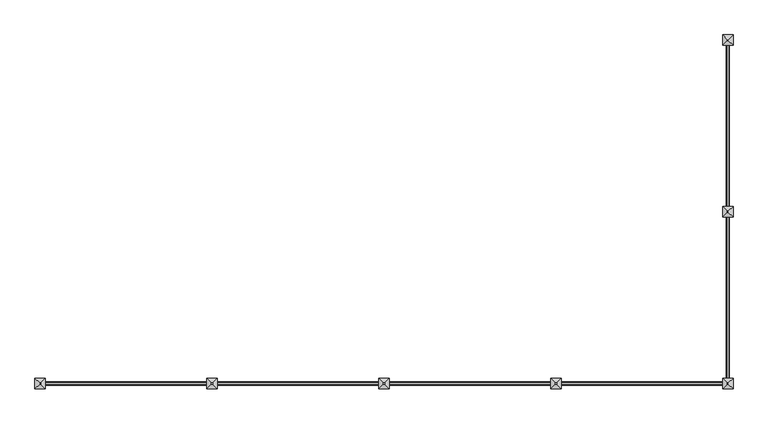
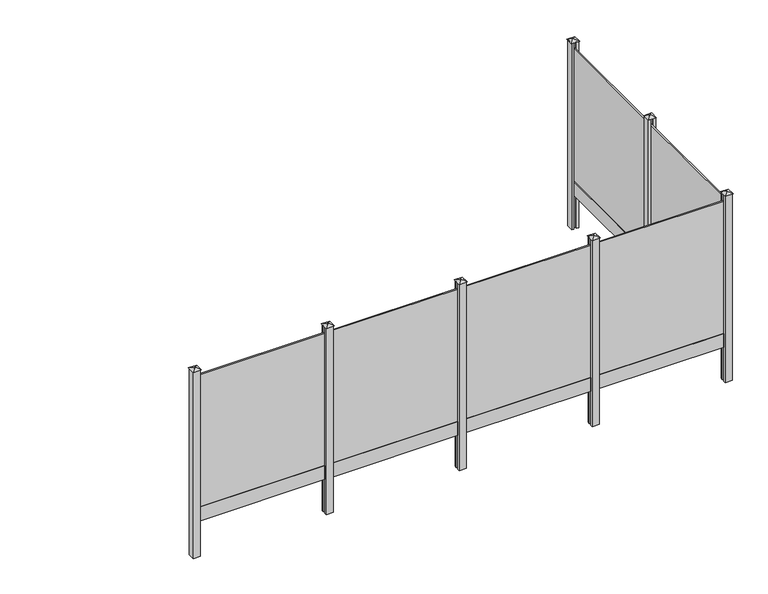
"""IFC4 building model written with IfcOpenShell, lengths in millimetres: railing geometry, Mehat - Railing - Plaque de Soubassement - Pour clôture aluminium - 180.5x20x3.5/1.7 cm."""

from ifc_helpers import new_model, si_unit, frame, origin, origin_with_axes, place, context, project, spatial, polyline, outline, extrude, faceted_brep, source, transform, mapped, element, save


def railing_d93a8585(model_context):
    return source(origin(), model_context, "Body", "SolidModel", [
        extrude(outline(polyline([(-14103.7483484, 18477.5056064), (-14120.7483484, 18477.5056064), (-14120.7483484, 20282.5056064), (-14103.7483484, 20282.5056064), (-14103.7483484, 18477.5056064)])), frame((0.0, 0.0, 200.0), z_axis=(0.0, 0.0, 1.0), x_axis=(1.0, 0.0, 0.0)), (0.0, 0.0, 1.0), 1950.0),
        extrude(outline(polyline([(-14129.7483484, 20282.5056064), (-14112.7483484, 20282.5056064), (-14094.7483484, 20257.5056064), (-14094.7483484, 18502.5056064), (-14112.7483484, 18477.5056064), (-14129.7483484, 18477.5056064), (-14129.7483484, 20282.5056064)])), origin_with_axes(), (0.0, 0.0, 1.0), 200.0),
        extrude(outline(polyline([(-14062.2483484, 18402.5056064), (-14094.7483484, 18402.5056064), (-14094.7483484, 18427.5056064), (-14129.7483484, 18427.5056064), (-14129.7483484, 18402.5056064), (-14162.2483484, 18402.5056064), (-14162.2483484, 18502.5056064), (-14129.7483484, 18502.5056064), (-14129.7483484, 18477.5056064), (-14094.7483484, 18477.5056064), (-14094.7483484, 18502.5056064), (-14062.2483484, 18502.5056064), (-14062.2483484, 18402.5056064)])), frame((0.0, 0.0, -500.0), z_axis=(0.0, 0.0, 1.0), x_axis=(1.0, 0.0, 0.0)), (0.0, 0.0, 1.0), 2750.0),
        faceted_brep([(-14118.6528945, 18458.8556064, 2275.4), (-14118.6528945, 18446.1556064, 2275.4), (-14105.9528945, 18446.1556064, 2275.4), (-14105.9528945, 18458.8556064, 2275.4), (-14168.5983484, 18508.8556064, 2250.0), (-14055.8983484, 18508.8556064, 2250.0), (-14055.8983484, 18396.1556064, 2250.0), (-14168.5983484, 18396.1556064, 2250.0)], [[[0, 1, 2, 3]], [[4, 5, 6, 7]], [[4, 0, 3, 5]], [[5, 3, 2, 6]], [[6, 2, 1, 7]], [[7, 1, 0, 4]]]),
        extrude(outline(polyline([(-14103.7483484, 16622.5056064), (-14120.7483484, 16622.5056064), (-14120.7483484, 18427.5056064), (-14103.7483484, 18427.5056064), (-14103.7483484, 16622.5056064)])), frame((0.0, 0.0, 200.0), z_axis=(0.0, 0.0, 1.0), x_axis=(1.0, 0.0, 0.0)), (0.0, 0.0, 1.0), 1950.0),
        extrude(outline(polyline([(-14129.7483484, 18427.5056064), (-14112.7483484, 18427.5056064), (-14094.7483484, 18402.5056064), (-14094.7483484, 16647.5056064), (-14112.7483484, 16622.5056064), (-14129.7483484, 16622.5056064), (-14129.7483484, 18427.5056064)])), origin_with_axes(), (0.0, 0.0, 1.0), 200.0),
        extrude(outline(polyline([(-15942.2483484, 16589.0056064), (-15942.2483484, 16606.0056064), (-14137.2483484, 16606.0056064), (-14137.2483484, 16589.0056064), (-15942.2483484, 16589.0056064)])), frame((0.0, 0.0, 200.0), z_axis=(0.0, 0.0, 1.0), x_axis=(1.0, 0.0, 0.0)), (0.0, 0.0, 1.0), 1950.0),
        extrude(outline(polyline([(-14137.2483484, 16615.0056064), (-14137.2483484, 16598.0056064), (-14162.2483484, 16580.0056064), (-15917.2483484, 16580.0056064), (-15942.2483484, 16598.0056064), (-15942.2483484, 16615.0056064), (-14137.2483484, 16615.0056064)])), origin_with_axes(), (0.0, 0.0, 1.0), 200.0),
        extrude(outline(polyline([(-16017.2483484, 16547.5056064), (-16017.2483484, 16580.0056064), (-15992.2483484, 16580.0056064), (-15992.2483484, 16615.0056064), (-16017.2483484, 16615.0056064), (-16017.2483484, 16647.5056064), (-15917.2483484, 16647.5056064), (-15917.2483484, 16615.0056064), (-15942.2483484, 16615.0056064), (-15942.2483484, 16580.0056064), (-15917.2483484, 16580.0056064), (-15917.2483484, 16547.5056064), (-16017.2483484, 16547.5056064)])), frame((0.0, 0.0, -500.0), z_axis=(0.0, 0.0, 1.0), x_axis=(1.0, 0.0, 0.0)), (0.0, 0.0, 1.0), 2750.0),
        faceted_brep([(-15960.8983484, 16603.9101525, 2275.4), (-15973.5983484, 16603.9101525, 2275.4), (-15973.5983484, 16591.2101525, 2275.4), (-15960.8983484, 16591.2101525, 2275.4), (-15910.8983484, 16653.8556064, 2250.0), (-15910.8983484, 16541.1556064, 2250.0), (-16023.5983484, 16541.1556064, 2250.0), (-16023.5983484, 16653.8556064, 2250.0)], [[[0, 1, 2, 3]], [[4, 5, 6, 7]], [[4, 0, 3, 5]], [[5, 3, 2, 6]], [[6, 2, 1, 7]], [[7, 1, 0, 4]]]),
        extrude(outline(polyline([(-17797.2483484, 16589.0056064), (-17797.2483484, 16606.0056064), (-15992.2483484, 16606.0056064), (-15992.2483484, 16589.0056064), (-17797.2483484, 16589.0056064)])), frame((0.0, 0.0, 200.0), z_axis=(0.0, 0.0, 1.0), x_axis=(1.0, 0.0, 0.0)), (0.0, 0.0, 1.0), 1950.0),
        extrude(outline(polyline([(-15992.2483484, 16615.0056064), (-15992.2483484, 16598.0056064), (-16017.2483484, 16580.0056064), (-17772.2483484, 16580.0056064), (-17797.2483484, 16598.0056064), (-17797.2483484, 16615.0056064), (-15992.2483484, 16615.0056064)])), origin_with_axes(), (0.0, 0.0, 1.0), 200.0),
        extrude(outline(polyline([(-17872.2483484, 16547.5056064), (-17872.2483484, 16580.0056064), (-17847.2483484, 16580.0056064), (-17847.2483484, 16615.0056064), (-17872.2483484, 16615.0056064), (-17872.2483484, 16647.5056064), (-17772.2483484, 16647.5056064), (-17772.2483484, 16615.0056064), (-17797.2483484, 16615.0056064), (-17797.2483484, 16580.0056064), (-17772.2483484, 16580.0056064), (-17772.2483484, 16547.5056064), (-17872.2483484, 16547.5056064)])), frame((0.0, 0.0, -500.0), z_axis=(0.0, 0.0, 1.0), x_axis=(1.0, 0.0, 0.0)), (0.0, 0.0, 1.0), 2750.0),
        faceted_brep([(-17815.8983484, 16603.9101525, 2275.4), (-17828.5983484, 16603.9101525, 2275.4), (-17828.5983484, 16591.2101525, 2275.4), (-17815.8983484, 16591.2101525, 2275.4), (-17765.8983484, 16653.8556064, 2250.0), (-17765.8983484, 16541.1556064, 2250.0), (-17878.5983484, 16541.1556064, 2250.0), (-17878.5983484, 16653.8556064, 2250.0)], [[[0, 1, 2, 3]], [[4, 5, 6, 7]], [[4, 0, 3, 5]], [[5, 3, 2, 6]], [[6, 2, 1, 7]], [[7, 1, 0, 4]]]),
        extrude(outline(polyline([(-19652.2483484, 16589.0056064), (-19652.2483484, 16606.0056064), (-17847.2483484, 16606.0056064), (-17847.2483484, 16589.0056064), (-19652.2483484, 16589.0056064)])), frame((0.0, 0.0, 200.0), z_axis=(0.0, 0.0, 1.0), x_axis=(1.0, 0.0, 0.0)), (0.0, 0.0, 1.0), 1950.0),
        extrude(outline(polyline([(-17847.2483484, 16615.0056064), (-17847.2483484, 16598.0056064), (-17872.2483484, 16580.0056064), (-19627.2483484, 16580.0056064), (-19652.2483484, 16598.0056064), (-19652.2483484, 16615.0056064), (-17847.2483484, 16615.0056064)])), origin_with_axes(), (0.0, 0.0, 1.0), 200.0),
        extrude(outline(polyline([(-19727.2483484, 16547.5056064), (-19727.2483484, 16580.0056064), (-19702.2483484, 16580.0056064), (-19702.2483484, 16615.0056064), (-19727.2483484, 16615.0056064), (-19727.2483484, 16647.5056064), (-19627.2483484, 16647.5056064), (-19627.2483484, 16615.0056064), (-19652.2483484, 16615.0056064), (-19652.2483484, 16580.0056064), (-19627.2483484, 16580.0056064), (-19627.2483484, 16547.5056064), (-19727.2483484, 16547.5056064)])), frame((0.0, 0.0, -500.0), z_axis=(0.0, 0.0, 1.0), x_axis=(1.0, 0.0, 0.0)), (0.0, 0.0, 1.0), 2750.0),
        faceted_brep([(-19670.8983484, 16603.9101525, 2275.4), (-19683.5983484, 16603.9101525, 2275.4), (-19683.5983484, 16591.2101525, 2275.4), (-19670.8983484, 16591.2101525, 2275.4), (-19620.8983484, 16653.8556064, 2250.0), (-19620.8983484, 16541.1556064, 2250.0), (-19733.5983484, 16541.1556064, 2250.0), (-19733.5983484, 16653.8556064, 2250.0)], [[[0, 1, 2, 3]], [[4, 5, 6, 7]], [[4, 0, 3, 5]], [[5, 3, 2, 6]], [[6, 2, 1, 7]], [[7, 1, 0, 4]]]),
        extrude(outline(polyline([(-21507.2483484, 16589.0056064), (-21507.2483484, 16606.0056064), (-19702.2483484, 16606.0056064), (-19702.2483484, 16589.0056064), (-21507.2483484, 16589.0056064)])), frame((0.0, 0.0, 200.0), z_axis=(0.0, 0.0, 1.0), x_axis=(1.0, 0.0, 0.0)), (0.0, 0.0, 1.0), 1950.0),
        extrude(outline(polyline([(-19702.2483484, 16615.0056064), (-19702.2483484, 16598.0056064), (-19727.2483484, 16580.0056064), (-21482.2483484, 16580.0056064), (-21507.2483484, 16598.0056064), (-21507.2483484, 16615.0056064), (-19702.2483484, 16615.0056064)])), origin_with_axes(), (0.0, 0.0, 1.0), 200.0),
        extrude(outline(polyline([(-14162.2483484, 16547.5056064), (-14162.2483484, 16580.0056064), (-14137.2483484, 16580.0056064), (-14137.2483484, 16615.0056064), (-14162.2483484, 16615.0056064), (-14162.2483484, 16647.5056064), (-14129.7483484, 16647.5056064), (-14129.7483484, 16622.5056064), (-14094.7483484, 16622.5056064), (-14094.7483484, 16647.5056064), (-14062.2483484, 16647.5056064), (-14062.2483484, 16547.5056064), (-14162.2483484, 16547.5056064)])), frame((0.0, 0.0, -500.0), z_axis=(0.0, 0.0, 1.0), x_axis=(1.0, 0.0, 0.0)), (0.0, 0.0, 1.0), 2750.0),
        faceted_brep([(-14105.8983484, 16603.9101525, 2275.4), (-14118.5983484, 16603.9101525, 2275.4), (-14118.5983484, 16591.2101525, 2275.4), (-14105.8983484, 16591.2101525, 2275.4), (-14055.8983484, 16653.8556064, 2250.0), (-14055.8983484, 16541.1556064, 2250.0), (-14168.5983484, 16541.1556064, 2250.0), (-14168.5983484, 16653.8556064, 2250.0)], [[[0, 1, 2, 3]], [[4, 5, 6, 7]], [[4, 0, 3, 5]], [[5, 3, 2, 6]], [[6, 2, 1, 7]], [[7, 1, 0, 4]]]),
        extrude(outline(polyline([(-14062.2483484, 20257.5056064), (-14094.7483484, 20257.5056064), (-14094.7483484, 20282.5056064), (-14129.7483484, 20282.5056064), (-14129.7483484, 20257.5056064), (-14162.2483484, 20257.5056064), (-14162.2483484, 20357.5056064), (-14062.2483484, 20357.5056064), (-14062.2483484, 20257.5056064)])), frame((0.0, 0.0, -500.0), z_axis=(0.0, 0.0, 1.0), x_axis=(1.0, 0.0, 0.0)), (0.0, 0.0, 1.0), 2750.0),
        faceted_brep([(-14118.6528945, 20313.8556064, 2275.4), (-14118.6528945, 20301.1556064, 2275.4), (-14105.9528945, 20301.1556064, 2275.4), (-14105.9528945, 20313.8556064, 2275.4), (-14168.5983484, 20363.8556064, 2250.0), (-14055.8983484, 20363.8556064, 2250.0), (-14055.8983484, 20251.1556064, 2250.0), (-14168.5983484, 20251.1556064, 2250.0)], [[[0, 1, 2, 3]], [[4, 5, 6, 7]], [[4, 0, 3, 5]], [[5, 3, 2, 6]], [[6, 2, 1, 7]], [[7, 1, 0, 4]]]),
        extrude(outline(polyline([(-21582.2483484, 16547.5056064), (-21582.2483484, 16647.5056064), (-21482.2483484, 16647.5056064), (-21482.2483484, 16615.0056064), (-21507.2483484, 16615.0056064), (-21507.2483484, 16580.0056064), (-21482.2483484, 16580.0056064), (-21482.2483484, 16547.5056064), (-21582.2483484, 16547.5056064)])), frame((0.0, 0.0, -500.0), z_axis=(0.0, 0.0, 1.0), x_axis=(1.0, 0.0, 0.0)), (0.0, 0.0, 1.0), 2750.0),
        faceted_brep([(-21525.8983484, 16603.9101525, 2275.4), (-21538.5983484, 16603.9101525, 2275.4), (-21538.5983484, 16591.2101525, 2275.4), (-21525.8983484, 16591.2101525, 2275.4), (-21475.8983484, 16653.8556064, 2250.0), (-21475.8983484, 16541.1556064, 2250.0), (-21588.5983484, 16541.1556064, 2250.0), (-21588.5983484, 16653.8556064, 2250.0)], [[[0, 1, 2, 3]], [[4, 5, 6, 7]], [[4, 0, 3, 5]], [[5, 3, 2, 6]], [[6, 2, 1, 7]], [[7, 1, 0, 4]]]),
    ])


if __name__ == "__main__":
    model = new_model("IFC4")
    model_context = context("Model", 3, world=origin())
    ifc_project = project(units=[si_unit("LENGTHUNIT", "METRE", prefix="MILLI")], contexts=[model_context])
    site = spatial("IfcSite", under=ifc_project)
    building = spatial("IfcBuilding", under=site)
    placement = place(None, origin())
    railing_shape = railing_d93a8585(model_context)
    element("IfcRailing", 1, ObjectType="Mehat - Railing - Plaque de Soubassement - Pour clôture aluminium - 180.5x20x3.5/1.7 cm", at=placement, inside=building, context=model_context, shape_type="MappedRepresentation", body=[
        mapped(railing_shape, transform((0.0, 0.0, 0.0), x_axis=(1.0, 0.0, 0.0), y_axis=(0.0, 1.0, 0.0), z_axis=(0.0, 0.0, 1.0))),
    ])
    save(model, "model.ifc")
